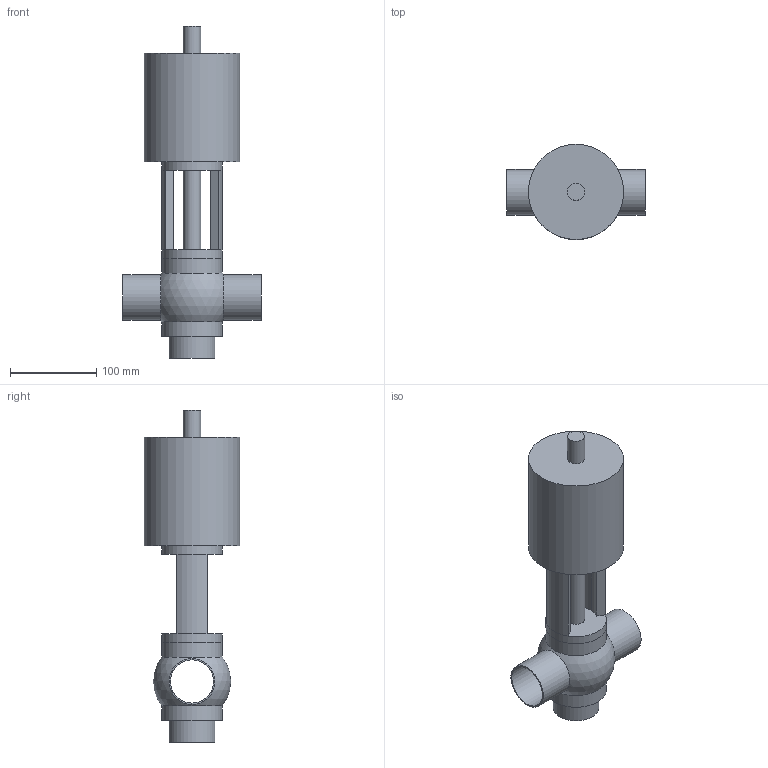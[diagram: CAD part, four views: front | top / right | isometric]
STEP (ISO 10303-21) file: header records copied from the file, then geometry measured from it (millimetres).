
FILE_DESCRIPTION(('FreeCAD Model'),'2;1');
FILE_NAME('/home/martin/Documents/proyect/valves/stp/valve_T_DN-50.step' ,'2018-01-12T21:55:52',('Author'),(''), 'Open CASCADE STEP processor 6.8','FreeCAD','Unknown');
FILE_SCHEMA(('AUTOMOTIVE_DESIGN_CC2 { 1 2 10303 214 -1 1 5 4 }'));
Length unit declared in the file: millimetre
Products named in the file (3): ASSEMBLY; valve_T_DN-50-body; valve_T_DN-50-head
Assembly tree (2 placements, depth 2):
  ASSEMBLY
    valve_T_DN-50-body
    valve_T_DN-50-head
Bounding box: 160 x 110 x 384 mm (x, y, z)
Volume: 1557894 mm3; surface area: 172870.4 mm2
Topology: 2 solids, 2 shells, 36 faces, 80 edges, 50 vertices
Faces by surface type: cylinder 18, plane 16, sphere 2
Full cylindrical faces by diameter (mm): 20 x2, 50 x3, 53 x3, 70 x4, 110 x1
Entity records: 2414 total; most frequent: CARTESIAN_POINT 556, DIRECTION 350, ORIENTED_EDGE 158, PCURVE 158, DEFINITIONAL_REPRESENTATION 158, LINE 145, VECTOR 145, AXIS2_PLACEMENT_3D 88
